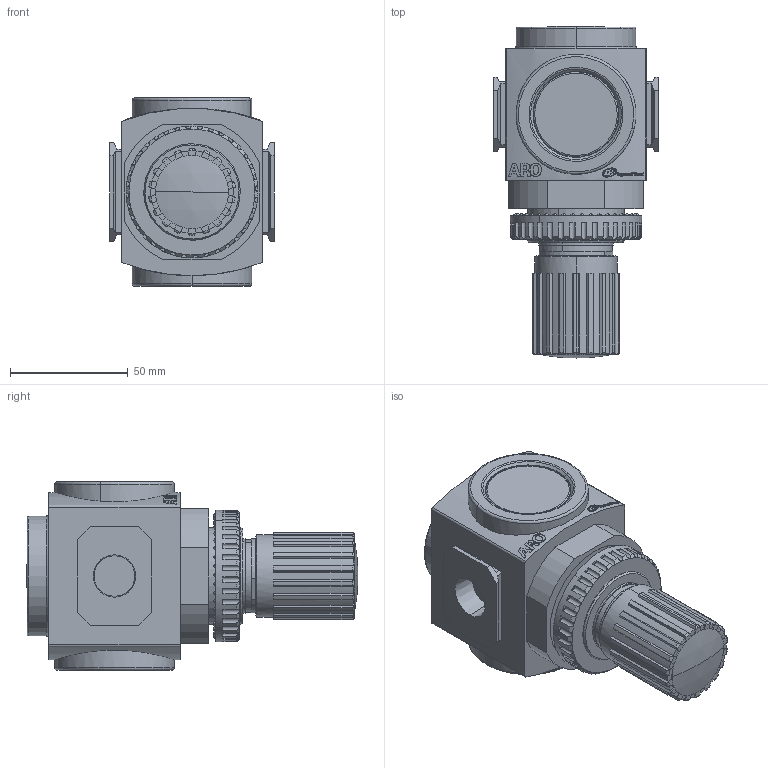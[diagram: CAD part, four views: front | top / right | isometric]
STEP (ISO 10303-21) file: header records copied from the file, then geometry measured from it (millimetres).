
FILE_DESCRIPTION(/* description */ (''),/* implementation_level */ '2;1');
FILE_NAME(/* name */ 'R373X1-XXX_01',/* time_stamp */ '2009-02-05T11:49:45-05:00',/* author */ (''),/* organization */ (''),/* preprocessor_version */ 'ST-DEVELOPER v9',/* originating_system */ 'UGS - NX 4.0',/* authorisation */ '');
FILE_SCHEMA (('AUTOMOTIVE_DESIGN { 1 0 10303 214 1 1 1 1 }'));
Products named in the file (1): szee378Clf2m
Bounding box: 70 x 141.1 x 80 mm (x, y, z)
Volume: 381815.2 mm3; surface area: 45351.6 mm2
Topology: 2 solids, 2 shells, 1326 faces, 3319 edges, 2125 vertices
Faces by surface type: plane 780, cylinder 323, bspline 84, extrusion 51, cone 47, torus 39, sphere 2
Full cylindrical faces by diameter (mm): 53.516 x1
Entity records: 54846 total; most frequent: CARTESIAN_POINT 15385, ORIENTED_EDGE 6636, DIRECTION 5502, EDGE_CURVE 3318, VERTEX_POINT 2125, VECTOR 1992, LINE 1941, AXIS2_PLACEMENT_3D 1755
